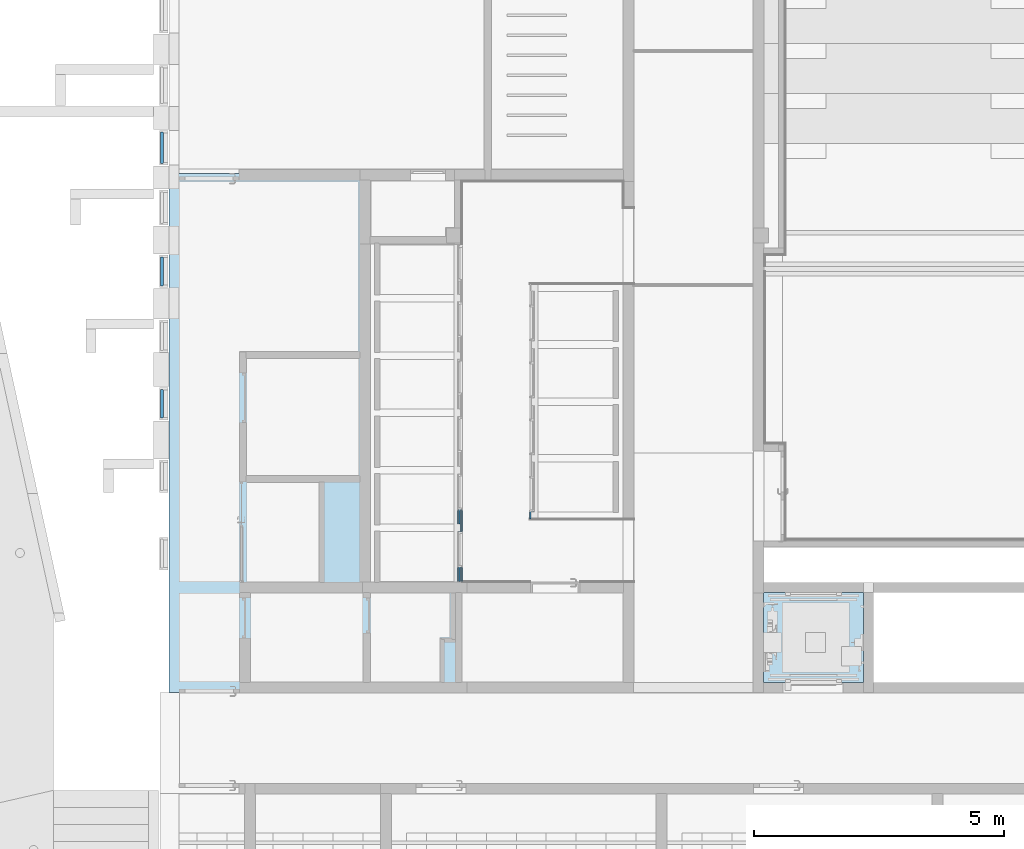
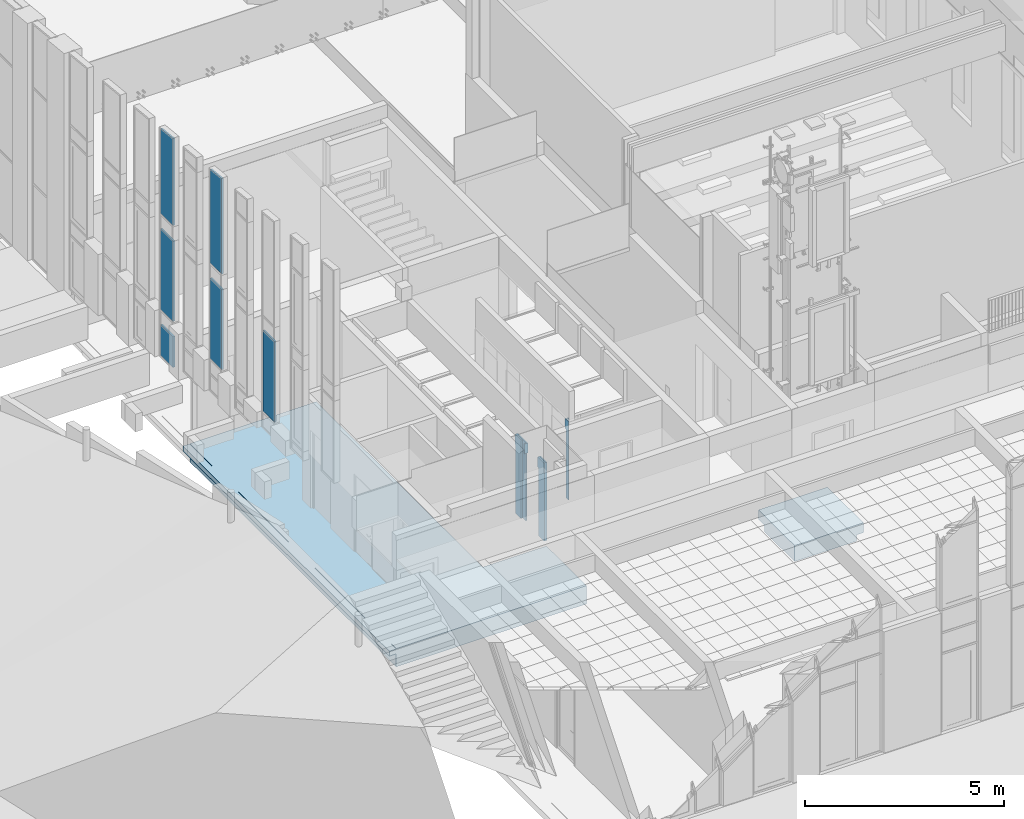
# One storey, part 94 of 246: 9 plates, 2 slabs, 5 elements without a shape of their own.
"""IFC2X3 building model written with IfcOpenShell, lengths in millimetres."""

import ifcopenshell
import ifcopenshell.guid

model = None  # the IFC model being written
_history = None  # IfcOwnerHistory: only IFC2X3 demands one
_inside = {}  # id of a spatial element -> (the spatial element, [elements in it])
_under = {}  # id of a project, library or spatial element -> (it, [spatial elements below it])
_declared = {}  # id of a project -> (the project, [libraries it declares])
_typed = {}  # id of a type object -> (the type object, [elements of that type])
_made_of = {}  # id of a material, layer set ... -> (it, [elements and type objects made of it])


def new_model(schema):
    """Start an empty IFC model of exactly this schema.

    Asked for "IFC4X3", IfcOpenShell would pick the latest addendum, in which some entities
    have other attributes; the version numbers below select the first issue.
    IFC2X3 requires an IfcOwnerHistory on every rooted entity: one is made here for all.
    """
    global model, _history
    if schema == "IFC4X3":
        model = ifcopenshell.file(schema_version=(4, 3, 0, 0))
    else:
        model = ifcopenshell.file(schema=schema)
    _inside.clear()
    _under.clear()
    _declared.clear()
    _typed.clear()
    _made_of.clear()
    _history = None
    if model.schema == "IFC2X3":
        org = make("IfcOrganization", Name="unknown")
        user = make(
            "IfcPersonAndOrganization",
            ThePerson=make("IfcPerson", FamilyName="unknown"),
            TheOrganization=org,
        )
        app = make(
            "IfcApplication",
            ApplicationDeveloper=org,
            Version="unknown",
            ApplicationFullName="unknown",
            ApplicationIdentifier="unknown",
        )
        _history = make(
            "IfcOwnerHistory",
            OwningUser=user,
            OwningApplication=app,
            ChangeAction="ADDED",
            CreationDate=0,
        )
    return model


def make(cls, **values):
    """One entity of the class cls with the attributes given. An attribute that is None is left unset."""
    return model.create_entity(
        cls, **{name: value for name, value in values.items() if value is not None}
    )


def entity(cls, *values):
    """Any entity or typed value of the class cls, its attributes in the order of the schema. None: left unset."""
    e = model.create_entity(cls)
    for i, value in enumerate(values):
        if value is not None:
            e[i] = value
    return e


def rooted(cls, **values):
    """An entity with a GlobalId (a new one), such as an element, a storey or a relation."""
    return make(cls, GlobalId=ifcopenshell.guid.new(), OwnerHistory=_history, **values)


def si_unit(unit_type, name, prefix=None):
    """IfcSIUnit, for example si_unit("LENGTHUNIT", "METRE", prefix="MILLI")."""
    return make("IfcSIUnit", UnitType=unit_type, Prefix=prefix, Name=name)


def converted_unit(unit_type, name, factor, base, dimensions=None, offset=None):
    """IfcConversionBasedUnit, such as the inch: factor (a typed value) times the base unit."""
    return make(
        "IfcConversionBasedUnit"
        if offset is None
        else "IfcConversionBasedUnitWithOffset",
        ConversionOffset=offset,
        Dimensions=None
        if dimensions is None
        else entity("IfcDimensionalExponents", *dimensions),
        UnitType=unit_type,
        Name=name,
        ConversionFactor=make(
            "IfcMeasureWithUnit", ValueComponent=factor, UnitComponent=base
        ),
    )


def derived_unit(unit_type, elements):
    """IfcDerivedUnit: a product of units, each with its exponent."""
    return make(
        "IfcDerivedUnit",
        Elements=[
            make("IfcDerivedUnitElement", Unit=unit, Exponent=power)
            for unit, power in elements
        ],
        UnitType=unit_type,
    )


def money_unit(currency):
    """IfcMonetaryUnit."""
    return make("IfcMonetaryUnit", Currency=currency)


def assignment(units):
    """IfcUnitAssignment: the units of a project."""
    return None if units is None else make("IfcUnitAssignment", Units=units)


def point(xyz):
    """IfcCartesianPoint."""
    return None if xyz is None else make("IfcCartesianPoint", Coordinates=xyz)


def direction(xyz):
    """IfcDirection."""
    return None if xyz is None else make("IfcDirection", DirectionRatios=xyz)


def frame(location, z_axis=None, x_axis=None):
    """IfcAxis2Placement3D, a coordinate frame: its origin and axes. An axis left out is left unset."""
    return make(
        "IfcAxis2Placement3D",
        Location=point(location),
        Axis=direction(z_axis),
        RefDirection=direction(x_axis),
    )


def origin_with_axes():
    """The frame at (0, 0, 0) with the z axis (0, 0, 1) and the x axis (1, 0, 0) written out."""
    return frame((0.0, 0.0, 0.0), z_axis=(0.0, 0.0, 1.0), x_axis=(1.0, 0.0, 0.0))


def place(relative_to, where):
    """IfcLocalPlacement: puts the frame where relative to a parent placement (None: the world)."""
    return make(
        "IfcLocalPlacement", PlacementRelTo=relative_to, RelativePlacement=where
    )


def context(
    kind, dimensions, precision=None, world=None, true_north=None, identifier=None
):
    """IfcGeometricRepresentationContext, for example the 3D "Model" context."""
    return make(
        "IfcGeometricRepresentationContext",
        ContextIdentifier=identifier,
        ContextType=kind,
        CoordinateSpaceDimension=dimensions,
        Precision=precision,
        WorldCoordinateSystem=world,
        TrueNorth=true_north,
    )


def subcontext(parent, identifier, kind, view, scale=None):
    """IfcGeometricRepresentationSubContext, for example "Body" below "Model"."""
    return make(
        "IfcGeometricRepresentationSubContext",
        ContextIdentifier=identifier,
        ContextType=kind,
        ParentContext=parent,
        TargetScale=scale,
        TargetView=view,
    )


def project(units=None, contexts=None):
    """IfcProject with its units and contexts."""
    return rooted(
        "IfcProject",
        Name="project",
        RepresentationContexts=contexts,
        UnitsInContext=assignment(units),
    )


def spatial(cls, under=None, at=None, **own):
    """A site, building, storey or space (cls), placed at a placement, below another one or the project."""
    s = rooted(cls, ObjectPlacement=at, **own)
    if under is not None:
        _under.setdefault(under.id(), (under, []))[1].append(s)
    return s


def faces_of(points, faces, orient=None, outer=None):
    """IfcFace entities. A face is a list of loops; a loop is a list of indices into points, from 0.

    orient and outer hold one flag for each loop. By default every Orientation is true, the
    first loop of a face is its IfcFaceOuterBound and the others are IfcFaceBound.
    """
    made = []
    for i, loops in enumerate(faces):
        bounds = []
        for j, loop in enumerate(loops):
            is_outer = j == 0 if outer is None else outer[i][j]
            bounds.append(
                make(
                    "IfcFaceOuterBound" if is_outer else "IfcFaceBound",
                    Bound=make("IfcPolyLoop", Polygon=[points[k] for k in loop]),
                    Orientation=True if orient is None else orient[i][j],
                )
            )
        made.append(make("IfcFace", Bounds=bounds))
    return made


def faceted_brep(points, faces, orient=None, outer=None, voids=None):
    """IfcFacetedBrep: a solid bounded by flat faces; with voids (closed shells), ...WithVoids."""
    shared = [point(p) for p in points]
    hull = make("IfcClosedShell", CfsFaces=faces_of(shared, faces, orient, outer))
    if voids is None:
        return make("IfcFacetedBrep", Outer=hull)
    return make(
        "IfcFacetedBrepWithVoids",
        Outer=hull,
        Voids=[
            make(cls, CfsFaces=faces_of(shared, fs, o, b)) for cls, fs, o, b in voids
        ],
    )


def shape(context_of_items, identifier, shape_type, items):
    """IfcShapeRepresentation: the items that make up one representation, for example the "Body"."""
    return make(
        "IfcShapeRepresentation",
        ContextOfItems=context_of_items,
        RepresentationIdentifier=identifier,
        RepresentationType=shape_type,
        Items=items,
    )


def material(Name=None, Category=None):
    """IfcMaterial."""
    return make("IfcMaterial", Name=Name, Category=Category)


def material_list(materials):
    """IfcMaterialList."""
    return make("IfcMaterialList", Materials=materials)


def made_of(thing, what):
    """Note that an element or type object is made of a material, layer set ...; save() writes the relation."""
    if what is not None:
        _made_of.setdefault(what.id(), (what, []))[1].append(thing)
    return thing


def type_object(cls, material=None, **own):
    """A type object (cls), such as IfcWallType, which elements share."""
    return made_of(rooted(cls, **own), material)


def element(
    cls,
    number,
    at=None,
    inside=None,
    cuts=None,
    type_object=None,
    material=None,
    context=None,
    identifier="Body",
    shape_type=None,
    held_by="IfcProductDefinitionShape",
    body=None,
    shapes=None,
    **own,
):
    """One element of the class cls, such as IfcWall. Its Tag is "e" and its number.

    at: its placement. inside: the storey or other place that contains it. cuts: it is an
    opening in that element (IfcRelVoidsElement). A single representation is given by context,
    identifier, shape_type and body (its items); several are given by shapes. held_by: the class
    of the entity that holds the representations. save() writes the other relations.
    """
    e = rooted(cls, Tag="e%d" % number, ObjectPlacement=at, **own)
    if body is not None:
        shapes = [shape(context, identifier, shape_type, body)]
    if shapes is not None:
        e.Representation = make(held_by, Representations=shapes)
    if inside is not None:
        _inside.setdefault(inside.id(), (inside, []))[1].append(e)
    if cuts is not None:
        rooted(
            "IfcRelVoidsElement", RelatingBuildingElement=cuts, RelatedOpeningElement=e
        )
    if type_object is not None:
        _typed.setdefault(type_object.id(), (type_object, []))[1].append(e)
    return made_of(e, material)


def aggregate(whole, parts):
    """IfcRelAggregates: a whole, such as a stair, and the parts it consists of."""
    return rooted("IfcRelAggregates", RelatingObject=whole, RelatedObjects=parts)


def save(model, path):
    """Write the relations noted so far, then the file.

    IfcRelAggregates (storeys below a building ...), IfcRelContainedInSpatialStructure (elements
    in a storey), IfcRelDefinesByType, IfcRelAssociatesMaterial and IfcRelDeclares: one each for
    every whole, place, type object, material and project.
    """
    for whole, parts in _under.values():
        aggregate(whole, parts)
    for where, things in _inside.values():
        rooted(
            "IfcRelContainedInSpatialStructure",
            RelatedElements=things,
            RelatingStructure=where,
        )
    for kind, things in _typed.values():
        rooted("IfcRelDefinesByType", RelatedObjects=things, RelatingType=kind)
    for what, things in _made_of.values():
        rooted("IfcRelAssociatesMaterial", RelatedObjects=things, RelatingMaterial=what)
    for by, libraries in _declared.values():
        rooted("IfcRelDeclares", RelatingContext=by, RelatedDefinitions=libraries)
    model.write(path)


model = new_model("IFC2X3")

# Units and contexts
model_context = context("Model", 3, precision=0.01, world=origin_with_axes(), true_north=direction((0.0, 1.0)))
body_context = subcontext(model_context, "Body", "Model", "MODEL_VIEW")
ifc_project = project(units=[si_unit("LENGTHUNIT", "METRE", prefix="MILLI"), si_unit("AREAUNIT", "SQUARE_METRE"), si_unit("VOLUMEUNIT", "CUBIC_METRE"), converted_unit("PLANEANGLEUNIT", "DEGREE", entity("IfcPlaneAngleMeasure", 0.0174532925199), si_unit("PLANEANGLEUNIT", "RADIAN"), dimensions=[0, 0, 0, 0, 0, 0, 0]), si_unit("SOLIDANGLEUNIT", "STERADIAN"), money_unit("EUR"), converted_unit("TIMEUNIT", "Year", entity("IfcTimeMeasure", 31556926.0), si_unit("TIMEUNIT", "SECOND"), dimensions=[0, 0, 1, 0, 0, 0, 0]), si_unit("MASSUNIT", "GRAM", prefix="KILO"), si_unit("THERMODYNAMICTEMPERATUREUNIT", "DEGREE_CELSIUS"), si_unit("LUMINOUSINTENSITYUNIT", "LUMEN"), si_unit("ENERGYUNIT", "JOULE", prefix="MEGA"), derived_unit("THERMALCONDUCTANCEUNIT", [(si_unit("POWERUNIT", "WATT"), 1), (si_unit("LENGTHUNIT", "METRE"), -1), (si_unit("THERMODYNAMICTEMPERATUREUNIT", "KELVIN"), -1)]), derived_unit("SPECIFICHEATCAPACITYUNIT", [(si_unit("ENERGYUNIT", "JOULE"), 1), (si_unit("MASSUNIT", "GRAM", prefix="KILO"), -1), (si_unit("THERMODYNAMICTEMPERATUREUNIT", "KELVIN"), -1)]), derived_unit("MASSDENSITYUNIT", [(si_unit("MASSUNIT", "GRAM", prefix="KILO"), 1), (si_unit("VOLUMEUNIT", "CUBIC_METRE"), -1)])], contexts=[model_context])

# Site, building, storey
site_placement = place(None, origin_with_axes())
site = spatial("IfcSite", under=ifc_project, at=site_placement, Name="L.Koidula tn 11b", CompositionType="ELEMENT")
building_placement = place(site_placement, origin_with_axes())
building = spatial("IfcBuilding", under=site, at=building_placement, Name="Rakvere Riigigümnaasium", CompositionType="ELEMENT")
storey_placement = place(building_placement, origin_with_axes())
storey = spatial("IfcBuildingStorey", under=building, at=storey_placement, Name="1.korrus 0,00", CompositionType="ELEMENT", Elevation=0.0)

# Curtain wall, plate
curtain_wall_type = type_object("IfcCurtainWallType", Name="Curtain Wall Type", PredefinedType="NOTDEFINED")
curtain_wall_1_placement = place(storey_placement, frame((35156.0871538, 20885.4555022, 3234.99992887), z_axis=(0.0, 0.0, 1.0), x_axis=(1.0, 0.0, 0.0)))
curtain_wall_1 = element("IfcCurtainWall", 1, at=curtain_wall_1_placement, inside=storey, type_object=curtain_wall_type, Name="KLF-04-08")
ifc_material_1 = material(Name="Klaaspakett 3x")
plate_type_1 = type_object("IfcPlateType", Name="Distinct Panel 576 x 2476 x 54", PredefinedType="CURTAIN_PANEL")
plate_1_placement = place(curtain_wall_1_placement, frame((0.0, -1.12524070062e-05, 1760.00007113), z_axis=(0.0, 0.0, 1.0), x_axis=(0.0, 1.0, 0.0)))
plate_1 = element("IfcPlate", 2, at=plate_1_placement, type_object=plate_type_1, material=ifc_material_1, Name="KLF-04-08-Klaasid", ObjectType="CURTAIN_PANEL", context=body_context, shape_type="Brep", body=[
    faceted_brep([(-287.999981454, -27.0, 1238.00000894), (287.999999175, -27.0, 1238.00000894), (287.999999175, 27.0, 1238.00000894), (-287.999981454, 27.0, 1238.00000894), (-287.999981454, -27.0, -1238.00000894), (287.999999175, -27.0, -1238.00000894), (287.999999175, 27.0, -1238.00000894), (-287.999981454, 27.0, -1238.00000894)], [[[0, 1, 2, 3]], [[0, 4, 5, 1]], [[1, 5, 6, 2]], [[3, 2, 6, 7]], [[4, 0, 3, 7]], [[5, 4, 7, 6]]]),
])
aggregate(curtain_wall_1, [plate_1])

curtain_wall_2_placement = place(storey_placement, frame((35156.0871538, 23535.4555553, 2770.0), z_axis=(0.0, 0.0, 1.0), x_axis=(1.0, 0.0, 0.0)))
curtain_wall_2 = element("IfcCurtainWall", 3, at=curtain_wall_2_placement, inside=storey, type_object=curtain_wall_type, Name="KLF-04-06")
plate_2_placement = place(curtain_wall_2_placement, frame((0.0, 0.0, 2225.00005204), z_axis=(0.0, 0.0, 1.0), x_axis=(0.0, 1.0, 0.0)))
plate_2 = element("IfcPlate", 4, at=plate_2_placement, type_object=plate_type_1, material=ifc_material_1, Name="KLF-04-06-Klaasid", ObjectType="CURTAIN_PANEL", context=body_context, shape_type="Brep", body=[
    faceted_brep([(-287.999947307, -27.0, 1238.00000894), (287.999958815, -27.0, 1238.00000894), (287.999958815, 27.0, 1238.00000894), (-287.999947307, 27.0, 1238.00000894), (-287.999947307, -27.0, -1238.00000894), (287.999958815, -27.0, -1238.00000894), (287.999958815, 27.0, -1238.00000894), (-287.999947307, 27.0, -1238.00000894)], [[[0, 1, 2, 3]], [[0, 4, 5, 1]], [[1, 5, 6, 2]], [[3, 2, 6, 7]], [[4, 0, 3, 7]], [[5, 4, 7, 6]]]),
])

# Curtain wall, plates
curtain_wall_3_placement = place(storey_placement, frame((35156.0871538, 26010.4555274, 2305.0), z_axis=(0.0, 0.0, 1.0), x_axis=(1.0, 0.0, 0.0)))
curtain_wall_3 = element("IfcCurtainWall", 5, at=curtain_wall_3_placement, inside=storey, type_object=curtain_wall_type, Name="KLF-04-04")
plate_type_2 = type_object("IfcPlateType", Name="Distinct Panel 626 x 2476 x 54", PredefinedType="CURTAIN_PANEL")
plate_3_placement = place(curtain_wall_3_placement, frame((0.0, 0.0, 2690.00005204), z_axis=(0.0, 0.0, 1.0), x_axis=(0.0, 1.0, 0.0)))
plate_3 = element("IfcPlate", 6, at=plate_3_placement, type_object=plate_type_2, material=ifc_material_1, Name="KLF-04-04-Klaasid", ObjectType="CURTAIN_PANEL", context=body_context, shape_type="Brep", body=[
    faceted_brep([(-312.999919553, -27.0, 1238.00000894), (312.99998657, -27.0, 1238.00000894), (312.99998657, 27.0, 1238.00000894), (-312.999919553, 27.0, 1238.00000894), (-313.000031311, -27.0, -1238.00000894), (312.99998657, -27.0, -1238.00000894), (312.99998657, 27.0, -1238.00000894), (-313.000031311, 27.0, -1238.00000894)], [[[0, 1, 2, 3]], [[0, 4, 5, 1]], [[1, 5, 6, 2]], [[3, 2, 6, 7]], [[4, 0, 3, 7]], [[5, 4, 7, 6]]]),
])
plate_type_3 = type_object("IfcPlateType", Name="Distinct Panel 626 x 2613 x 54", PredefinedType="CURTAIN_PANEL")
plate_4_placement = place(curtain_wall_3_placement, frame((0.0, 0.000146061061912, 5732.63051009), z_axis=(0.0, 0.0, 1.0), x_axis=(0.0, 1.0, 0.0)))
plate_4 = element("IfcPlate", 7, at=plate_4_placement, type_object=plate_type_3, material=ifc_material_1, Name="KLF-04-04-Klaasid", ObjectType="CURTAIN_PANEL", context=body_context, shape_type="Brep", body=[
    faceted_brep([(-312.999640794, -27.0, 1343.3242901), (312.9998149, -27.0, 1277.52905398), (312.9998149, 27.0, 1277.52905398), (-312.999640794, 27.0, 1343.3242901), (-313.00000719, -27.0, -1335.63044494), (312.9998149, -27.0, -1335.63044494), (312.9998149, 27.0, -1335.63044494), (-313.00000719, 27.0, -1335.63044494)], [[[0, 1, 2, 3]], [[0, 4, 5, 1]], [[1, 5, 6, 2]], [[3, 2, 6, 7]], [[4, 0, 3, 7]], [[5, 4, 7, 6]]]),
])
plate_type_4 = type_object("IfcPlateType", Name="Distinct Panel 626 x 946 x 54", PredefinedType="CURTAIN_PANEL")
plate_5_placement = place(curtain_wall_3_placement, frame((0.0, -2.64303459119e-05, 497.50002602), z_axis=(0.0, 0.0, 1.0), x_axis=(0.0, 1.0, 0.0)))
plate_5 = element("IfcPlate", 8, at=plate_5_placement, type_object=plate_type_4, material=ifc_material_1, Name="KLF-04-04-Klaasid", ObjectType="CURTAIN_PANEL", context=body_context, shape_type="Brep", body=[
    faceted_brep([(-313.000001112, -27.0, 485.500030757), (313.000003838, -27.0, 485.500030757), (313.000003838, 27.0, 485.500030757), (-313.000001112, 27.0, 485.500030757), (-313.000001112, -27.0, -460.500025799), (313.000003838, -27.0, -460.500025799), (313.000003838, 27.0, -460.500025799), (-313.000001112, 27.0, -460.500025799)], [[[0, 1, 2, 3]], [[0, 4, 5, 1]], [[1, 5, 6, 2]], [[3, 2, 6, 7]], [[4, 0, 3, 7]], [[5, 4, 7, 6]]]),
])
aggregate(curtain_wall_3, [plate_3, plate_4, plate_5])

# Plate
plate_type_5 = type_object("IfcPlateType", Name="Distinct Panel 576 x 2876 x 54", PredefinedType="CURTAIN_PANEL")
plate_6_placement = place(curtain_wall_2_placement, frame((0.0, -0.00011597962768, 5397.69703917), z_axis=(0.0, 0.0, 1.0), x_axis=(0.0, 1.0, 0.0)))
plate_6 = element("IfcPlate", 9, at=plate_6_placement, type_object=plate_type_5, material=ifc_material_1, Name="KLF-04-06-Klaasid", ObjectType="CURTAIN_PANEL", context=body_context, shape_type="Brep", body=[
    faceted_brep([(-288.000253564, -27.0, 1470.76324108), (288.000045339, -27.0, 1410.22311086), (288.000045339, 27.0, 1410.22311086), (-288.000253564, 27.0, 1470.76324108), (-287.999897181, -27.0, -1465.69699853), (288.000045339, -27.0, -1465.69699853), (288.000045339, 27.0, -1465.69699853), (-287.999897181, 27.0, -1465.69699853)], [[[0, 1, 2, 3]], [[0, 4, 5, 1]], [[1, 5, 6, 2]], [[3, 2, 6, 7]], [[4, 0, 3, 7]], [[5, 4, 7, 6]]]),
])

aggregate(curtain_wall_2, [plate_2, plate_6])

# Curtain wall, plates
curtain_wall_4_placement = place(storey_placement, frame((41170.0073165, 24038.4555472, 1.56205997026e-05), z_axis=(0.0, 0.0, 1.0), x_axis=(1.0, 0.0, 0.0)))
curtain_wall_4 = element("IfcCurtainWall", 10, at=curtain_wall_4_placement, inside=storey, type_object=curtain_wall_type, Name="SUS-01")
ifc_material_2 = material(Name="Klaasvill")
ifc_material_3 = material(Name="MDF")
ifc_material_4 = material(Name="Kipsplaat")
ifc_material_list_1 = material_list([ifc_material_2, ifc_material_3, ifc_material_4])
plate_type_6 = type_object("IfcPlateType", Name="SA-Siseuksesüsteem-Paneel 500 x 300 x 0", PredefinedType="CURTAIN_PANEL")
plate_7_placement = place(curtain_wall_4_placement, frame((0.0, -5497.00003493, 1499.99994772), z_axis=(0.0, 0.0, 1.0), x_axis=(0.0, 1.0, 0.0)))
plate_7 = element("IfcPlate", 11, at=plate_7_placement, type_object=plate_type_6, material=ifc_material_list_1, Name="Panel-SA-Siseuks-020", ObjectType="CURTAIN_PANEL", context=body_context, shape_type="Brep", body=[
    faceted_brep([(-65.9841600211, 45.0, 900.000036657), (-66.0798356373, 45.0, 900.000036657), (-81.0798356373, 45.000028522, 900.000036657), (-201.079835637, 45.000028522, 900.000036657), (-216.079835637, 45.000028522, 900.000036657), (-216.079835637, 79.0, 900.000036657), (-249.999997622, 79.0, 900.000025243), (-249.999997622, 42.0, 900.000025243), (250.0, 42.0, 900.000025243), (250.0, 79.0, 900.000025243), (-65.9841600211, 79.0, 900.000036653), (-65.9841600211, 45.0, -1499.99996334), (-66.0798356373, 45.0, -1499.99996334), (-81.0798356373, 45.000028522, -1499.99996334), (-201.079835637, 45.000028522, -1499.99996334), (-215.999997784, 45.000028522, 600.000026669), (-216.079835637, 45.000028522, 600.000026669), (-215.999997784, 45.000028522, -1499.99996334), (-216.079835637, 79.0, 600.000026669), (-249.999997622, 79.0, 600.000026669), (-249.999997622, 42.0, 600.000026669), (216.000000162, 42.0, 600.000026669), (250.0, 42.0, 600.000026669), (-215.999997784, 42.0, 600.000026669), (-215.999997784, 42.0, -1499.99996334), (216.000000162, 42.0, -1499.99996334), (250.0, 79.0, 600.000026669), (-65.9841600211, 79.0, -1499.99996334), (216.000000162, 79.0, 600.000026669), (216.000000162, 79.0, -1499.99996334)], [[[0, 1, 2, 3, 4, 5, 6, 7, 8, 9, 10]], [[1, 0, 11, 12, 13, 2]], [[13, 14, 3, 2]], [[15, 16, 4, 3, 14, 17]], [[16, 18, 5, 4]], [[19, 6, 5, 18]], [[7, 6, 19, 20]], [[21, 22, 8, 7, 20, 23, 24, 25]], [[22, 26, 9, 8]], [[27, 10, 9, 26, 28, 29]], [[0, 10, 27, 11]], [[11, 27, 29, 25, 24, 17, 14, 13, 12]], [[19, 18, 16, 15, 23, 20]], [[24, 23, 15, 17]], [[21, 28, 26, 22]], [[25, 29, 28, 21]]]),
    faceted_brep([(-65.9841600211, 92.0, 900.000036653), (-65.9841600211, 84.0, 900.000036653), (250.0, 84.0, 900.000025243), (250.0, 92.0, 900.000025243), (-65.9841600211, 84.0, -1499.99996334), (-65.9841600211, 92.0, -1499.99996334), (216.000000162, 84.0, -1499.99996334), (216.000000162, 84.0, 600.000026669), (250.0, 84.0, 600.000026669), (250.0, 92.0, 600.000026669), (216.000000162, 92.0, 600.000026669), (216.000000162, 92.0, -1499.99996334)], [[[0, 1, 2, 3]], [[4, 1, 0, 5]], [[1, 4, 6, 7, 8, 2]], [[9, 3, 2, 8]], [[5, 0, 3, 9, 10, 11]], [[4, 5, 11, 6]], [[11, 10, 7, 6]], [[10, 9, 8, 7]]]),
    faceted_brep([(-249.999997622, 84.0, 600.000026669), (-216.079835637, 84.0, 600.000026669), (-216.079835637, 84.0, 900.000036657), (-249.999997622, 84.0, 900.000025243), (-249.999997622, 92.0, 600.000026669), (-216.079835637, 92.0, 600.000026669), (-216.079835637, 92.0, 900.000036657), (-249.999997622, 92.0, 900.000025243)], [[[0, 1, 2, 3]], [[4, 5, 1, 0]], [[5, 6, 2, 1]], [[3, 2, 6, 7]], [[7, 4, 0, 3]], [[7, 6, 5, 4]]]),
    faceted_brep([(-249.999997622, 0.0, 900.000025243), (250.0, 0.0, 900.000025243), (250.0, 10.0, 900.000025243), (-249.999997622, 10.0, 900.000025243), (-249.999997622, 0.0, 600.000026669), (-215.999997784, 0.0, 600.000026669), (-215.999997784, 0.0, -1499.99996334), (216.000000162, 0.0, -1499.99996334), (216.000000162, 0.0, 600.000026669), (250.0, 0.0, 600.000026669), (250.0, 10.0, 600.000026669), (216.000000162, 10.0, 600.000026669), (216.000000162, 10.0, -1499.99996334), (-215.999997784, 10.0, -1499.99996334), (-215.999997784, 10.0, 600.000026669), (-249.999997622, 10.0, 600.000026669)], [[[0, 1, 2, 3]], [[0, 4, 5, 6, 7, 8, 9, 1]], [[1, 9, 10, 2]], [[3, 2, 10, 11, 12, 13, 14, 15]], [[4, 0, 3, 15]], [[5, 4, 15, 14]], [[6, 5, 14, 13]], [[7, 6, 13, 12]], [[8, 7, 12, 11]], [[9, 8, 11, 10]]]),
    faceted_brep([(-249.999997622, 12.0, 900.000025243), (250.0, 12.0, 900.000025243), (250.0, 25.0, 900.000025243), (-249.999997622, 25.0, 900.000025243), (-249.999997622, 12.0, 600.000026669), (-215.999997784, 12.0, 600.000026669), (-215.999997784, 12.0, -1499.99996334), (216.000000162, 12.0, -1499.99996334), (216.000000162, 12.0, 600.000026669), (250.0, 12.0, 600.000026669), (250.0, 25.0, 600.000026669), (216.000000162, 25.0, 600.000026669), (216.000000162, 25.0, -1499.99996334), (-215.999997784, 25.0, -1499.99996334), (-215.999997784, 25.0, 600.000026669), (-249.999997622, 25.0, 600.000026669)], [[[0, 1, 2, 3]], [[0, 4, 5, 6, 7, 8, 9, 1]], [[1, 9, 10, 2]], [[3, 2, 10, 11, 12, 13, 14, 15]], [[4, 0, 3, 15]], [[5, 4, 15, 14]], [[6, 5, 14, 13]], [[7, 6, 13, 12]], [[8, 7, 12, 11]], [[9, 8, 11, 10]]]),
    faceted_brep([(-249.999997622, 25.0, 900.000025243), (250.0, 25.0, 900.000025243), (250.0, 38.0, 900.000025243), (-249.999997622, 38.0, 900.000025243), (-249.999997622, 25.0, 600.000026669), (-215.999997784, 25.0, 600.000026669), (-215.999997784, 25.0, -1499.99996334), (216.000000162, 25.0, -1499.99996334), (216.000000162, 25.0, 600.000026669), (250.0, 25.0, 600.000026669), (250.0, 38.0, 600.000026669), (216.000000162, 38.0, 600.000026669), (216.000000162, 38.0, -1499.99996334), (-215.999997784, 38.0, -1499.99996334), (-215.999997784, 38.0, 600.000026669), (-249.999997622, 38.0, 600.000026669)], [[[0, 1, 2, 3]], [[0, 4, 5, 6, 7, 8, 9, 1]], [[1, 9, 10, 2]], [[3, 2, 10, 11, 12, 13, 14, 15]], [[4, 0, 3, 15]], [[5, 4, 15, 14]], [[6, 5, 14, 13]], [[7, 6, 13, 12]], [[8, 7, 12, 11]], [[9, 8, 11, 10]]]),
])
ifc_material_list_2 = material_list([ifc_material_3, ifc_material_4, ifc_material_2])
plate_type_7 = type_object("IfcPlateType", Name="SA-Siseuksesüsteem-Paneel 316 x 300 x 0", PredefinedType="CURTAIN_PANEL")
plate_8_placement = place(curtain_wall_4_placement, frame((0.0, -6555.00003493, 1499.99994772), z_axis=(0.0, 0.0, 1.0), x_axis=(0.0, 1.0, 0.0)))
plate_8 = element("IfcPlate", 12, at=plate_8_placement, type_object=plate_type_7, material=ifc_material_list_2, Name="Panel-SA-Siseuks-021", ObjectType="CURTAIN_PANEL", context=body_context, shape_type="Brep", body=[
    faceted_brep([(-157.999993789, 0.0, 899.999989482), (158.0, 0.0, 899.999989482), (158.0, 10.0, 899.999989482), (-157.999993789, 10.0, 899.999989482), (-157.999993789, 0.0, -1499.99996334), (124.000000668, 0.0, -1499.99996334), (124.000000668, 0.0, 599.999959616), (158.0, 0.0, 599.999959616), (158.0, 10.0, 599.999959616), (124.000000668, 10.0, 599.999959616), (124.000000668, 10.0, -1499.99996334), (-157.999993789, 10.0, -1499.99996334)], [[[0, 1, 2, 3]], [[0, 4, 5, 6, 7, 1]], [[1, 7, 8, 2]], [[3, 2, 8, 9, 10, 11]], [[4, 0, 3, 11]], [[5, 4, 11, 10]], [[6, 5, 10, 9]], [[7, 6, 9, 8]]]),
    faceted_brep([(-157.999993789, 12.0, 899.999989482), (158.0, 12.0, 899.999989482), (158.0, 25.0, 899.999989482), (-157.999993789, 25.0, 899.999989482), (-157.999993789, 12.0, -1499.99996334), (124.000000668, 12.0, -1499.99996334), (124.000000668, 12.0, 599.999959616), (158.0, 12.0, 599.999959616), (158.0, 25.0, 599.999959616), (124.000000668, 25.0, 599.999959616), (124.000000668, 25.0, -1499.99996334), (-157.999993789, 25.0, -1499.99996334)], [[[0, 1, 2, 3]], [[0, 4, 5, 6, 7, 1]], [[1, 7, 8, 2]], [[3, 2, 8, 9, 10, 11]], [[4, 0, 3, 11]], [[5, 4, 11, 10]], [[6, 5, 10, 9]], [[7, 6, 9, 8]]]),
    faceted_brep([(-157.999993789, 25.0, 899.999989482), (158.0, 25.0, 899.999989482), (158.0, 38.0, 899.999989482), (-157.999993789, 38.0, 899.999989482), (-157.999993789, 25.0, -1499.99996334), (124.000000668, 25.0, -1499.99996334), (124.000000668, 25.0, 599.999959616), (158.0, 25.0, 599.999959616), (158.0, 38.0, 599.999959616), (124.000000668, 38.0, 599.999959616), (124.000000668, 38.0, -1499.99996334), (-157.999993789, 38.0, -1499.99996334)], [[[0, 1, 2, 3]], [[0, 4, 5, 6, 7, 1]], [[1, 7, 8, 2]], [[3, 2, 8, 9, 10, 11]], [[4, 0, 3, 11]], [[5, 4, 11, 10]], [[6, 5, 10, 9]], [[7, 6, 9, 8]]]),
    faceted_brep([(-157.999993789, 42.0, 899.999989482), (158.0, 42.0, 899.999989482), (158.0, 79.0, 899.999989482), (-157.999993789, 79.0, 899.999989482), (-157.999993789, 42.0, -1499.99996334), (124.000000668, 42.0, -1499.99996334), (124.000000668, 42.0, 599.999959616), (158.0, 42.0, 599.999959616), (158.0, 79.0, 599.999959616), (124.000000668, 79.0, 599.999959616), (124.000000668, 79.0, -1499.99996334), (-157.999993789, 79.0, -1499.99996334)], [[[0, 1, 2, 3]], [[0, 4, 5, 6, 7, 1]], [[1, 7, 8, 2]], [[3, 2, 8, 9, 10, 11]], [[4, 0, 3, 11]], [[5, 4, 11, 10]], [[6, 5, 10, 9]], [[7, 6, 9, 8]]]),
    faceted_brep([(-157.999993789, 84.0, 899.999989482), (158.0, 84.0, 899.999989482), (158.0, 92.0, 899.999989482), (-157.999993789, 92.0, 899.999989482), (-157.999993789, 84.0, -1499.99996334), (124.000000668, 84.0, -1499.99996334), (124.000000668, 84.0, 599.999959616), (158.0, 84.0, 599.999959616), (158.0, 92.0, 599.999959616), (124.000000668, 92.0, 599.999959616), (124.000000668, 92.0, -1499.99996334), (-157.999993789, 92.0, -1499.99996334)], [[[0, 1, 2, 3]], [[0, 4, 5, 6, 7, 1]], [[1, 7, 8, 2]], [[3, 2, 8, 9, 10, 11]], [[4, 0, 3, 11]], [[5, 4, 11, 10]], [[6, 5, 10, 9]], [[7, 6, 9, 8]]]),
])
aggregate(curtain_wall_4, [plate_7, plate_8])

# Curtain wall, plate
curtain_wall_5_placement = place(storey_placement, frame((42519.9999626, 19079.4634323, 0.0), z_axis=(0.0, 0.0, 1.0), x_axis=(1.0, 0.0, 0.0)))
curtain_wall_5 = element("IfcCurtainWall", 13, at=curtain_wall_5_placement, inside=storey, type_object=curtain_wall_type, Name="SUS-02")
plate_type_8 = type_object("IfcPlateType", Name="SA-Siseuksesüsteem-Paneel 169 x 300 x 0", PredefinedType="CURTAIN_PANEL")
plate_9_placement = place(curtain_wall_5_placement, frame((0.0, -409.507919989, 1499.99999239), z_axis=(0.0, 0.0, 1.0), x_axis=(0.0, -1.0, 0.0)))
plate_9 = element("IfcPlate", 14, at=plate_9_placement, type_object=plate_type_8, material=ifc_material_list_1, Name="Panel-SA-Siseuks-016", ObjectType="CURTAIN_PANEL", context=body_context, shape_type="Brep", body=[
    faceted_brep([(-50.5, 42.0, 900.000007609), (-50.5, 79.0, 899.999996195), (-84.4999991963, 79.0, 899.999996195), (-84.4999991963, 42.0, 899.999996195), (-50.5, 42.0, 599.999997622), (-50.5, 45.0, 599.999997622), (-50.5, 79.0, 599.999997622), (-84.4999991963, 79.0, 599.999997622), (-84.4999991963, 42.0, 599.999997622)], [[[0, 1, 2, 3]], [[1, 0, 4, 5, 6]], [[2, 1, 6, 7]], [[2, 7, 8, 3]], [[4, 0, 3, 8]], [[5, 4, 8, 7, 6]]]),
    faceted_brep([(-84.4999991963, 84.0, 899.999996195), (-50.5, 84.0, 899.999996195), (-50.5, 92.0, 899.999996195), (-84.4999991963, 92.0, 899.999996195), (-84.4999991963, 84.0, 599.999997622), (-50.5, 84.0, 599.999997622), (-50.5, 92.0, 599.999997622), (-84.4999991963, 92.0, 599.999997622)], [[[0, 1, 2, 3]], [[4, 5, 1, 0]], [[5, 6, 2, 1]], [[3, 2, 6, 7]], [[3, 7, 4, 0]], [[7, 6, 5, 4]]]),
    faceted_brep([(-50.5, 25.0, 900.000007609), (-50.5, 38.0, 900.000007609), (-84.4999991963, 38.0, 899.999996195), (-84.4999991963, 25.0, 899.999996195), (-50.5, 38.0, 599.999997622), (-50.5, 25.0, 599.999997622), (-84.4999991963, 38.0, 599.999997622), (-84.4999991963, 25.0, 599.999997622)], [[[0, 1, 2, 3]], [[4, 1, 0, 5]], [[1, 4, 6, 2]], [[6, 7, 3, 2]], [[5, 0, 3, 7]], [[4, 5, 7, 6]]]),
    faceted_brep([(-35.5, 19.9999791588, 900.000007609), (-50.5, 19.9999791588, 900.000007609), (-50.5, 25.0, 900.000007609), (-84.4999991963, 25.0, 899.999996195), (-84.4999991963, 12.0, 899.999996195), (84.5, 12.0, 899.999996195), (84.5, 19.9999791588, 900.000007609), (-35.5, 19.9999791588, -1499.99999239), (-50.5, 19.9999791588, -1499.99999239), (-50.5, 19.9999791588, 599.999997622), (-50.5, 25.0, 599.999997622), (-84.4999991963, 25.0, 599.999997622), (-84.4999991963, 12.0, 599.999997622), (-50.499999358, 12.0, 599.999997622), (-50.499999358, 12.0, -1499.99999239), (84.5, 12.0, -1499.99999239), (84.5, 19.9999791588, -1499.99999239)], [[[0, 1, 2, 3, 4, 5, 6]], [[1, 0, 7, 8, 9]], [[10, 2, 1, 9]], [[2, 10, 11, 3]], [[11, 12, 4, 3]], [[5, 4, 12, 13, 14, 15]], [[16, 6, 5, 15]], [[0, 6, 16, 7]], [[7, 16, 15, 14, 8]], [[9, 8, 14, 13]], [[10, 9, 13, 12, 11]]]),
    faceted_brep([(-84.4999991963, 0.0, 899.999996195), (84.5, 0.0, 899.999996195), (84.5, 10.0, 899.999996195), (-84.4999991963, 10.0, 899.999996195), (-84.4999991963, 0.0, 599.999997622), (-50.499999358, 0.0, 599.999997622), (-50.499999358, 0.0, -1499.99999239), (84.5, 0.0, -1499.99999239), (84.5, 10.0, -1499.99999239), (-50.499999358, 10.0, -1499.99999239), (-50.499999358, 10.0, 599.999997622), (-84.4999991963, 10.0, 599.999997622)], [[[0, 1, 2, 3]], [[0, 4, 5, 6, 7, 1]], [[1, 7, 8, 2]], [[3, 2, 8, 9, 10, 11]], [[4, 0, 3, 11]], [[5, 4, 11, 10]], [[6, 5, 10, 9]], [[7, 6, 9, 8]]]),
])
aggregate(curtain_wall_5, [plate_9])

# Slabs
ifc_material_5 = material(Name="Polükarbamiid-2")
ifc_material_6 = material(Name="Betoon - pealevalu")
ifc_material_7 = material(Name="Betoon element / plaat")
ifc_material_8 = material(Name="Soojustus - EPS")
ifc_material_9 = material(Name="Killustik")
ifc_material_list_3 = material_list([ifc_material_5, ifc_material_6, ifc_material_7, ifc_material_8, ifc_material_8, ifc_material_9])
slab_type_1 = type_object("IfcSlabType", Name="PP-02-1 560", PredefinedType="NOTDEFINED")
slab_1_placement = place(storey_placement, frame((35300.0092871, 25495.4516763, 0.0), z_axis=(0.0, 0.0, 1.0), x_axis=(1.0, 0.0, 0.0)))
element("IfcSlab", 15, at=slab_1_placement, inside=storey, type_object=slab_type_1, material=ifc_material_list_3, Name="Põrand pinnasel", PredefinedType="NOTDEFINED", context=body_context, shape_type="Brep", body=[
    faceted_brep([(199.990765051, 0.0, -3.0), (199.990765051, -10394.9580128, -3.0), (199.990765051, -10394.9580128, 0.0), (199.990765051, 0.0, 0.0), (3879.99800091, 0.0, -3.0), (3879.99800091, -8384.99616398, -3.0), (5729.99802943, -8384.99616398, -3.0), (5729.99802943, -10394.9672092, -3.0), (5729.99802943, -10394.9672092, 0.0), (5729.99802943, -8384.99616398, 0.0), (3879.99800091, -8384.99616398, 0.0), (3879.99800091, 0.0, 0.0)], [[[0, 1, 2, 3]], [[1, 0, 4, 5, 6, 7]], [[2, 1, 7, 8]], [[2, 8, 9, 10, 11, 3]], [[0, 3, 11, 4]], [[5, 4, 11, 10]], [[6, 5, 10, 9]], [[7, 6, 9, 8]]]),
    faceted_brep([(199.990765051, 0.0, -10.0), (199.990765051, -10394.9580128, -10.0), (199.990765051, -10394.9580128, -3.0), (199.990765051, 0.0, -3.0), (3879.99800091, 0.0, -10.0), (3879.99800091, -8384.99616398, -10.0), (5729.99802943, -8384.99616398, -10.0), (5729.99802943, -10394.9672092, -10.0), (5729.99802943, -10394.9672092, -3.0), (5729.99802943, -8384.99616398, -3.0), (3879.99800091, -8384.99616398, -3.0), (3879.99800091, 0.0, -3.0)], [[[0, 1, 2, 3]], [[1, 0, 4, 5, 6, 7]], [[2, 1, 7, 8]], [[2, 8, 9, 10, 11, 3]], [[0, 3, 11, 4]], [[5, 4, 11, 10]], [[6, 5, 10, 9]], [[7, 6, 9, 8]]]),
    faceted_brep([(-0.0157337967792, -10394.9576802, -160.0), (-0.0157337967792, -10394.9576802, -10.0), (0.0, 0.0, -10.0), (0.0, 0.0, -160.0), (5729.99802943, -10394.9672092, -160.0), (5729.99802943, -10394.9672092, -10.0), (5729.99802943, -8384.99616398, -10.0), (3879.99800091, -8384.99616398, -10.0), (3879.99800091, 0.0, -10.0), (3879.99800091, 0.0, -160.0), (3879.99800091, -8384.99616398, -160.0), (5729.99802943, -8384.99616398, -160.0)], [[[0, 1, 2, 3]], [[4, 5, 1, 0]], [[2, 1, 5, 6, 7, 8]], [[3, 2, 8, 9]], [[3, 9, 10, 11, 4, 0]], [[11, 6, 5, 4]], [[10, 7, 6, 11]], [[9, 8, 7, 10]]]),
    faceted_brep([(199.990765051, 0.0, -260.0), (199.990765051, -10394.9580128, -260.0), (199.990765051, -10394.9580128, -160.0), (199.990765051, 0.0, -160.0), (3879.99800091, 0.0, -260.0), (3879.99800091, -8384.99616398, -260.0), (5729.99802943, -8384.99616398, -260.0), (5729.99802943, -10394.9672092, -260.0), (5729.99802943, -10394.9672092, -160.0), (5729.99802943, -8384.99616398, -160.0), (3879.99800091, -8384.99616398, -160.0), (3879.99800091, 0.0, -160.0)], [[[0, 1, 2, 3]], [[1, 0, 4, 5, 6, 7]], [[2, 1, 7, 8]], [[2, 8, 9, 10, 11, 3]], [[0, 3, 11, 4]], [[5, 4, 11, 10]], [[6, 5, 10, 9]], [[7, 6, 9, 8]]]),
    faceted_brep([(199.990765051, 0.0, -360.0), (199.990765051, -10394.9580128, -360.0), (199.990765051, -10394.9580128, -260.0), (199.990765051, 0.0, -260.0), (3879.99800091, 0.0, -360.0), (3879.99800091, -8384.99616398, -360.0), (5729.99802943, -8384.99616398, -360.0), (5729.99802943, -10394.9672092, -360.0), (5729.99802943, -10394.9672092, -260.0), (5729.99802943, -8384.99616398, -260.0), (3879.99800091, -8384.99616398, -260.0), (3879.99800091, 0.0, -260.0)], [[[0, 1, 2, 3]], [[1, 0, 4, 5, 6, 7]], [[2, 1, 7, 8]], [[2, 8, 9, 10, 11, 3]], [[0, 3, 11, 4]], [[5, 4, 11, 10]], [[6, 5, 10, 9]], [[7, 6, 9, 8]]]),
    faceted_brep([(199.990765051, 0.0, -560.0), (199.990765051, -10394.9580128, -560.0), (199.990765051, -10394.9580128, -360.0), (199.990765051, 0.0, -360.0), (3879.99800091, 0.0, -560.0), (3879.99800091, -8384.99616398, -560.0), (5729.99802943, -8384.99616398, -560.0), (5729.99802943, -10394.9672092, -560.0), (5729.99802943, -10394.9672092, -360.0), (5729.99802943, -8384.99616398, -360.0), (3879.99800091, -8384.99616398, -360.0), (3879.99800091, 0.0, -360.0)], [[[0, 1, 2, 3]], [[1, 0, 4, 5, 6, 7]], [[2, 1, 7, 8]], [[2, 8, 9, 10, 11, 3]], [[0, 3, 11, 4]], [[10, 5, 4, 11]], [[9, 6, 5, 10]], [[8, 7, 6, 9]]]),
])
ifc_material_list_4 = material_list([ifc_material_6, ifc_material_7, ifc_material_8, ifc_material_8, ifc_material_9])
slab_type_2 = type_object("IfcSlabType", Name="PP-01-5 490", PredefinedType="NOTDEFINED")
slab_2_placement = place(storey_placement, frame((47199.9999937, 15300.4785302, -1050.0), z_axis=(0.0, 0.0, 1.0), x_axis=(1.0, 0.0, 0.0)))
element("IfcSlab", 16, at=slab_2_placement, inside=storey, type_object=slab_type_2, material=ifc_material_list_4, Name="Põrand pinnasel", PredefinedType="NOTDEFINED", context=body_context, shape_type="Brep", body=[
    faceted_brep([(2000.00000007, 0.0, -10.0), (2000.00000007, 0.0, 0.0), (0.0, 0.0, 0.0), (0.0, 0.0, -10.0), (2000.00000007, 1809.97697926, -10.0), (2000.00000007, 1809.97697926, 0.0), (0.0, 1809.97697926, 0.0), (0.0, 1809.97697926, -10.0)], [[[0, 1, 2, 3]], [[4, 5, 1, 0]], [[2, 1, 5, 6]], [[3, 2, 6, 7]], [[3, 7, 4, 0]], [[7, 6, 5, 4]]]),
    faceted_brep([(2000.00000007, 0.0, -90.0), (2000.00000007, 0.0, -10.0), (0.0, 0.0, -10.0), (0.0, 0.0, -90.0), (2000.00000007, 1809.97697926, -90.0), (2000.00000007, 1809.97697926, -10.0), (0.0, 1809.97697926, -10.0), (0.0, 1809.97697926, -90.0)], [[[0, 1, 2, 3]], [[4, 5, 1, 0]], [[2, 1, 5, 6]], [[3, 2, 6, 7]], [[3, 7, 4, 0]], [[7, 6, 5, 4]]]),
    faceted_brep([(2000.00000007, 0.0, -190.0), (2000.00000007, 0.0, -90.0), (0.0, 0.0, -90.0), (0.0, 0.0, -190.0), (2000.00000007, 1809.97697926, -190.0), (2000.00000007, 1809.97697926, -90.0), (0.0, 1809.97697926, -90.0), (0.0, 1809.97697926, -190.0)], [[[0, 1, 2, 3]], [[4, 5, 1, 0]], [[2, 1, 5, 6]], [[3, 2, 6, 7]], [[3, 7, 4, 0]], [[7, 6, 5, 4]]]),
    faceted_brep([(2000.00000007, 0.0, -290.0), (2000.00000007, 0.0, -190.0), (0.0, 0.0, -190.0), (0.0, 0.0, -290.0), (2000.00000007, 1809.97697926, -290.0), (2000.00000007, 1809.97697926, -190.0), (0.0, 1809.97697926, -190.0), (0.0, 1809.97697926, -290.0)], [[[0, 1, 2, 3]], [[4, 5, 1, 0]], [[2, 1, 5, 6]], [[3, 2, 6, 7]], [[3, 7, 4, 0]], [[7, 6, 5, 4]]]),
    faceted_brep([(1999.99999995, 6.89867718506e-07, -300.0), (1999.99999995, 1509.97698206, -300.0), (1999.99999995, 1709.97698206, -300.0), (2000.00000007, 1809.97697926, -300.0), (2000.00000007, 1809.97697926, -290.0), (2000.00000007, 0.0, -290.0), (1799.99999995, 6.3467986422e-07, -300.0), (1799.99999995, 1509.97698206, -300.0), (4.14530632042e-08, 1509.97698206, -300.0), (4.14530632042e-08, 1809.97697926, -300.0), (0.0, 1809.97697926, -290.0), (0.0, 0.0, -290.0), (0.0, 0.0, -490.0), (1799.99999995, 6.3467986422e-07, -490.0), (1799.99999995, 1509.97698206, -490.0), (4.14530632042e-08, 1509.97698206, -490.0)], [[[0, 1, 2, 3, 4, 5]], [[1, 0, 6, 7, 8, 9, 3, 2]], [[3, 9, 10, 4]], [[10, 11, 5, 4]], [[6, 0, 5, 11, 12, 13]], [[14, 7, 6, 13]], [[7, 14, 15, 8]], [[8, 15, 12, 11, 10, 9]], [[14, 13, 12, 15]]]),
])

save(model, "model.ifc")
